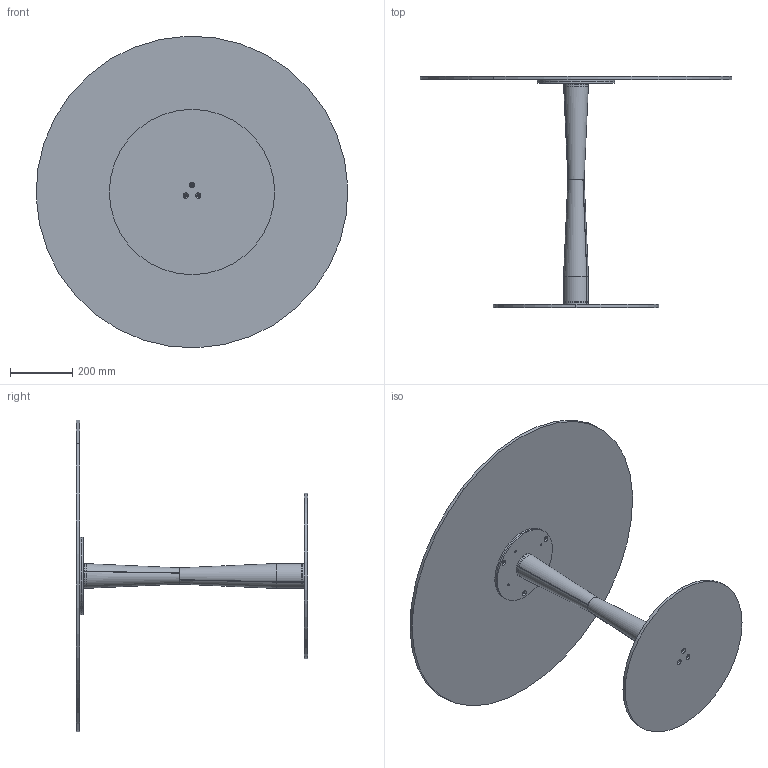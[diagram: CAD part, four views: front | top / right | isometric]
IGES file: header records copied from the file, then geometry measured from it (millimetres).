
Start section: SolidWorks IGES file using analytic representation for surfaces
Global section: file name: Y:\eforma\TECNICO\SOLIDWORKS\E-FORMA\5-TAVOLINI BISTRO\FILÚ\02 parts\FI30G.IGS; native system: SolidWorks 2022; preprocessor: SolidWorks 2022; author: eforma.tech; date: 240808.100159; units: millimetre
Bounding box: 999.51 x 741 x 999.51 mm (x, y, z)
Volume: 10927953.7 mm3; surface area: 2581168.2 mm2
Topology: 8 solids, 8 shells, 114 faces, 264 edges, 166 vertices
Faces by surface type: revolution 98, plane 16
